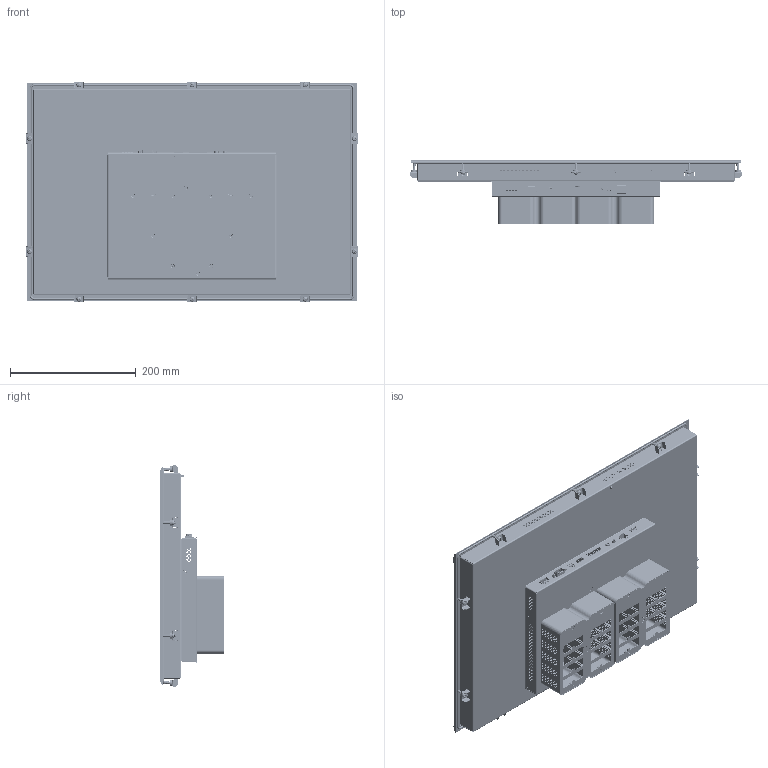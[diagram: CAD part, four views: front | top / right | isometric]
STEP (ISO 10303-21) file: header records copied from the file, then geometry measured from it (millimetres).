
FILE_DESCRIPTION (( 'STEP AP214' ), '1' );
FILE_NAME ('ﾏﾋﾊ21,5-02 ﾌ瑕褪.STEP', '2025-05-24T22:31:32', ( '' ), ( '' ), 'SwSTEP 2.0', 'SolidWorks 2021', '' );
FILE_SCHEMA (( 'AUTOMOTIVE_DESIGN' ));
Length unit declared in the file: millimetre
Products named in the file (1): ﾏﾋﾊ21,5-02 ﾌ瑕褪
Bounding box: 528.45 x 102.3 x 352.45 mm (x, y, z)
Surface area: 965652.8 mm2 (no closed solid volume)
Topology: 0 solids, 225 shells, 3281 faces, 18109 edges, 14821 vertices
Faces by surface type: cylinder 1855, plane 1248, cone 87, bspline 46, torus 45
Entity records: 226305 total; most frequent: CARTESIAN_POINT 51476, DIRECTION 27296, ORIENTED_EDGE 25159, EDGE_CURVE 18105, VERTEX_POINT 14821, LINE 9310, VECTOR 9310, AXIS2_PLACEMENT_3D 8993
